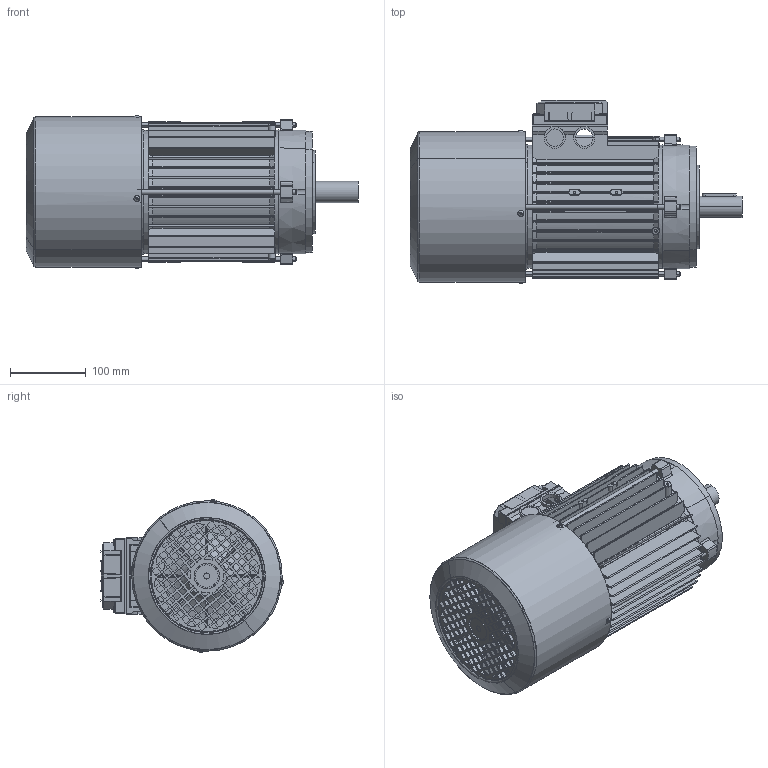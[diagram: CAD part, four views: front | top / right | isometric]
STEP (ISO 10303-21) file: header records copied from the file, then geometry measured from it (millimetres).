
FILE_DESCRIPTION (( 'STEP AP214' ), '1' );
FILE_NAME ('M14GC0011.STEP', '2019-09-18T13:55:36', ( '' ), ( '' ), 'SwSTEP 2.0', 'SolidWorks 2018', '' );
FILE_SCHEMA (( 'AUTOMOTIVE_DESIGN' ));
Length unit declared in the file: millimetre
Products named in the file (14): Scudo a Flangia B14 BA 100 - DEAC0194; Vite testa rotonda M3; Ventola BM 100-112; Tirante SM 100; Chiavetta 100-112; Albero BM 100; Cuffia BM 100- DEAL0097; Scudo Lato Freno P1 BM 100 - DEAQ0197; Carcassa 100 B5; M14GC0011; Coperchio per Scatola Singola 90 - 100 - 112 con viti; Guarnizione Coperchio Semplice Scatola BA 90 100 112 - DDAL0094; Vite per coperchio morsettiera; Coperchio per Scatola Singola 90 - 100 - 112
Assembly tree (22 placements, depth 3):
  M14GC0011
    Carcassa 100 B5
    Scudo Lato Freno P1 BM 100 - DEAQ0197
    Cuffia BM 100- DEAL0097
    Albero BM 100
    Chiavetta 100-112
    Tirante SM 100  x4
    Ventola BM 100-112
    Vite testa rotonda M3  x4
    Scudo a Flangia B14 BA 100 - DEAC0194
    Coperchio per Scatola Singola 90 - 100 - 112 con viti
      Coperchio per Scatola Singola 90 - 100 - 112
      Vite per coperchio morsettiera  x4
      Guarnizione Coperchio Semplice Scatola BA 90 100 112 - DDAL0094
Bounding box: 437 x 240.81 x 201.62 mm (x, y, z)
Volume: 1816090.6 mm3; surface area: 989018.2 mm2
Topology: 25 solids, 25 shells, 3408 faces, 9364 edges, 6044 vertices
Faces by surface type: cylinder 1336, plane 1315, torus 295, cone 262, bspline 192, sphere 8
Entity records: 109605 total; most frequent: CARTESIAN_POINT 31375, ORIENTED_EDGE 16730, DIRECTION 15686, EDGE_CURVE 8365, AXIS2_PLACEMENT_3D 5767, VERTEX_POINT 5438, VECTOR 4152, LINE 4152
